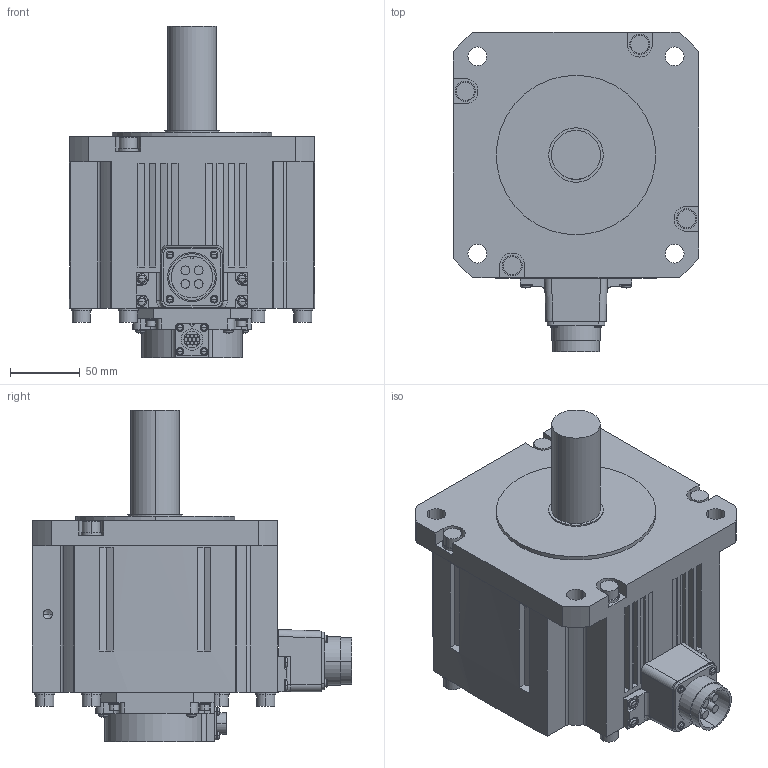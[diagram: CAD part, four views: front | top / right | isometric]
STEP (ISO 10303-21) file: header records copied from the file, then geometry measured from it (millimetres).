
FILE_DESCRIPTION((''),'2;1');
FILE_NAME('HK-ST352W_','2019-01-17T',('XE90682'),(''),'CREO PARAMETRIC BY PTC INC, 2016380','CREO PARAMETRIC BY PTC INC, 2016380','');
FILE_SCHEMA(('CONFIG_CONTROL_DESIGN'));
Length unit declared in the file: millimetre
Products named in the file (1): HK-ST352W_
Bounding box: 176 x 228.8 x 237.5 mm (x, y, z)
Volume: 3738464.4 mm3; surface area: 198396.1 mm2
Topology: 1 solids, 1 shells, 531 faces, 1291 edges, 814 vertices
Faces by surface type: plane 250, cylinder 207, torus 32, sphere 32, cone 8, bspline 2
Entity records: 15957 total; most frequent: CARTESIAN_POINT 3156, DIRECTION 2835, ORIENTED_EDGE 2510, EDGE_CURVE 1255, AXIS2_PLACEMENT_3D 1063, VERTEX_POINT 814, VECTOR 709, LINE 709
